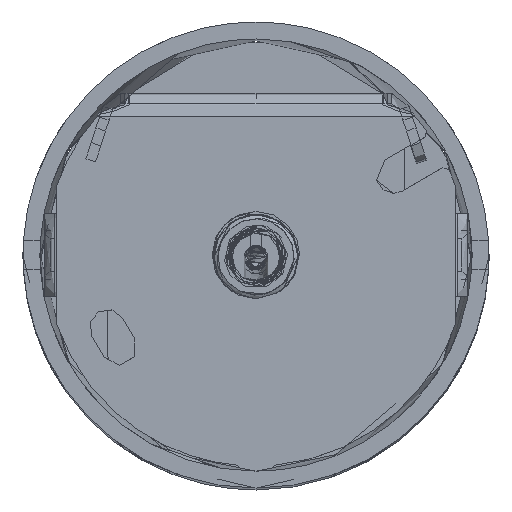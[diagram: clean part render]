
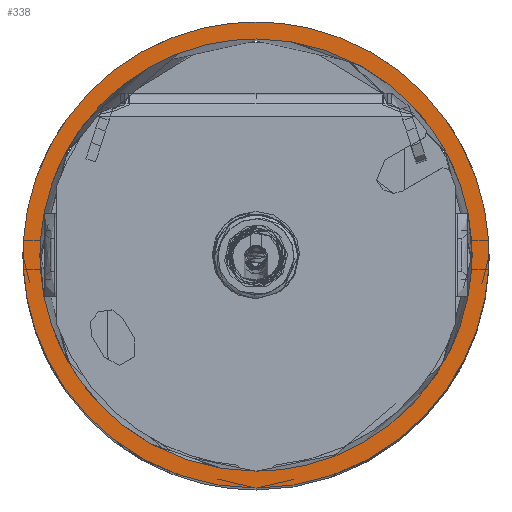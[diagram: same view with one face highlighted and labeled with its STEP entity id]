
A CAD part, top view. The second image highlights one B-rep face of the part: STEP entity #338.
In plain terms, the highlighted planar face has unit normal (0, 0, 1) as drawn and (0, 1, 0) by its records, which use the part's own axes.
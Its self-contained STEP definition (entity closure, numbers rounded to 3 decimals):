
#137=FACE_BOUND('',#1372,.T.);
#338=ADVANCED_FACE('',(#845,#137),#7868,.T.);
#845=FACE_OUTER_BOUND('',#1371,.T.);
#1371=EDGE_LOOP('',(#2593,#2594));
#1372=EDGE_LOOP('',(#2595,#2596));
#2593=ORIENTED_EDGE('',*,*,#4805,.T.);
#2594=ORIENTED_EDGE('',*,*,#4801,.F.);
#2595=ORIENTED_EDGE('',*,*,#4809,.T.);
#2596=ORIENTED_EDGE('',*,*,#4795,.T.);
#4795=EDGE_CURVE('',#7279,#7280,#6620,.T.);
#4801=EDGE_CURVE('',#7283,#7284,#6622,.T.);
#4805=EDGE_CURVE('',#7283,#7284,#6624,.T.);
#4809=EDGE_CURVE('',#7280,#7279,#6626,.T.);
#6620=(
BOUNDED_CURVE()
B_SPLINE_CURVE(2,(#17385,#17386,#17387,#17388,#17389),.UNSPECIFIED.,.F.,
 .F.)
B_SPLINE_CURVE_WITH_KNOTS((3,2,3),(-80.111,-40.055,
0.),.UNSPECIFIED.)
CURVE()
GEOMETRIC_REPRESENTATION_ITEM()
RATIONAL_B_SPLINE_CURVE((1.,0.707,1.,0.707,1.))
REPRESENTATION_ITEM('')
);
#6622=(
BOUNDED_CURVE()
B_SPLINE_CURVE(2,(#17453,#17454,#17455,#17456,#17457),.UNSPECIFIED.,.F.,
 .F.)
B_SPLINE_CURVE_WITH_KNOTS((3,2,3),(0.,43.197,86.394),
 .UNSPECIFIED.)
CURVE()
GEOMETRIC_REPRESENTATION_ITEM()
RATIONAL_B_SPLINE_CURVE((1.,0.707,1.,0.707,1.))
REPRESENTATION_ITEM('')
);
#6624=(
BOUNDED_CURVE()
B_SPLINE_CURVE(2,(#17467,#17468,#17469,#17470,#17471),.UNSPECIFIED.,.F.,
 .F.)
B_SPLINE_CURVE_WITH_KNOTS((3,2,3),(-86.394,-43.197,
0.),.UNSPECIFIED.)
CURVE()
GEOMETRIC_REPRESENTATION_ITEM()
RATIONAL_B_SPLINE_CURVE((1.,0.707,1.,0.707,1.))
REPRESENTATION_ITEM('')
);
#6626=(
BOUNDED_CURVE()
B_SPLINE_CURVE(2,(#17531,#17532,#17533,#17534,#17535),.UNSPECIFIED.,.F.,
 .F.)
B_SPLINE_CURVE_WITH_KNOTS((3,2,3),(-80.111,-40.055,
0.),.UNSPECIFIED.)
CURVE()
GEOMETRIC_REPRESENTATION_ITEM()
RATIONAL_B_SPLINE_CURVE((1.,0.707,1.,0.707,1.))
REPRESENTATION_ITEM('')
);
#7279=VERTEX_POINT('',#17315);
#7280=VERTEX_POINT('',#17316);
#7283=VERTEX_POINT('',#17319);
#7284=VERTEX_POINT('',#17320);
#7868=PLANE('',#8590);
#8590=AXIS2_PLACEMENT_3D('',#17233,#8786,$);
#8786=DIRECTION('',(0.,1.,0.));
#17233=CARTESIAN_POINT('',(-33.,65.,-33.));
#17315=CARTESIAN_POINT('',(0.,65.,25.5));
#17316=CARTESIAN_POINT('',(0.,65.,-25.5));
#17319=CARTESIAN_POINT('',(0.,65.,-27.5));
#17320=CARTESIAN_POINT('',(0.,65.,27.5));
#17385=CARTESIAN_POINT('',(0.,65.,25.5));
#17386=CARTESIAN_POINT('',(-25.5,65.,25.5));
#17387=CARTESIAN_POINT('',(-25.5,65.,0.));
#17388=CARTESIAN_POINT('',(-25.5,65.,-25.5));
#17389=CARTESIAN_POINT('',(0.,65.,-25.5));
#17453=CARTESIAN_POINT('',(0.,65.,-27.5));
#17454=CARTESIAN_POINT('',(27.5,65.,-27.5));
#17455=CARTESIAN_POINT('',(27.5,65.,0.));
#17456=CARTESIAN_POINT('',(27.5,65.,27.5));
#17457=CARTESIAN_POINT('',(0.,65.,27.5));
#17467=CARTESIAN_POINT('',(0.,65.,-27.5));
#17468=CARTESIAN_POINT('',(-27.5,65.,-27.5));
#17469=CARTESIAN_POINT('',(-27.5,65.,0.));
#17470=CARTESIAN_POINT('',(-27.5,65.,27.5));
#17471=CARTESIAN_POINT('',(0.,65.,27.5));
#17531=CARTESIAN_POINT('',(0.,65.,-25.5));
#17532=CARTESIAN_POINT('',(25.5,65.,-25.5));
#17533=CARTESIAN_POINT('',(25.5,65.,0.));
#17534=CARTESIAN_POINT('',(25.5,65.,25.5));
#17535=CARTESIAN_POINT('',(0.,65.,25.5));
